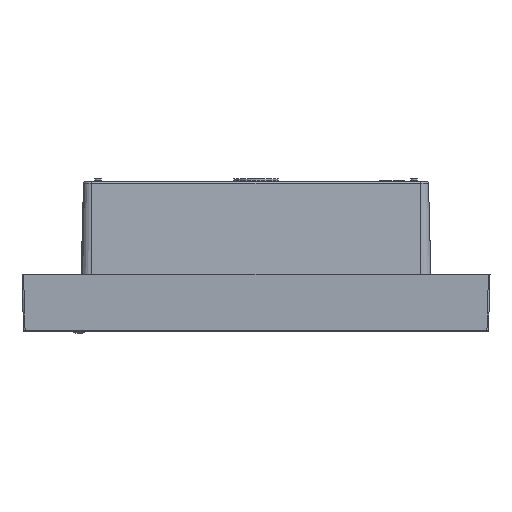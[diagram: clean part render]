
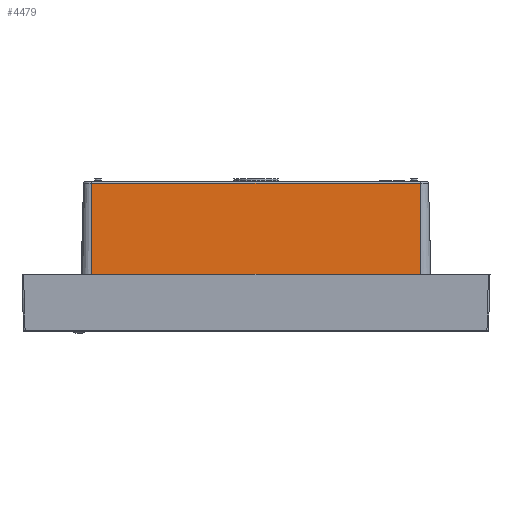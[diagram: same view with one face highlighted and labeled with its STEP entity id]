
A CAD part, left-side view. The second image highlights one B-rep face of the part: STEP entity #4479.
In plain terms, the highlighted planar face has unit normal (-1, 0, 0.026).
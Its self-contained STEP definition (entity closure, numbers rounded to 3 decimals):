
#3137 = VECTOR ( 'NONE', #30525, 1000. ) ;
#4479 = ADVANCED_FACE ( 'NONE', ( #23466 ), #9289, .T. ) ;
#5918 = CARTESIAN_POINT ( 'NONE',  ( -106.536, 51.5, -29.972 ) ) ;
#7533 = VERTEX_POINT ( 'NONE', #20070 ) ;
#9289 = PLANE ( 'NONE',  #33227 ) ;
#9416 = CARTESIAN_POINT ( 'NONE',  ( -106.563, -51.5, -31.027 ) ) ;
#10283 = VERTEX_POINT ( 'NONE', #22260 ) ;
#12027 = LINE ( 'NONE', #43152, #38844 ) ;
#13625 = DIRECTION ( 'NONE',  ( 0., 1., 0. ) ) ;
#13774 = CARTESIAN_POINT ( 'NONE',  ( -105.763, -51.5, -0.487 ) ) ;
#14369 = ORIENTED_EDGE ( 'NONE', *, *, #19811, .T. ) ;
#15028 = CARTESIAN_POINT ( 'NONE',  ( -106.536, -51.5, -29.972 ) ) ;
#15806 = EDGE_CURVE ( 'NONE', #30506, #10283, #12027, .T. ) ;
#17935 = LINE ( 'NONE', #9416, #3137 ) ;
#18014 = EDGE_CURVE ( 'NONE', #26742, #7533, #17935, .T. ) ;
#19811 = EDGE_CURVE ( 'NONE', #7533, #10283, #37505, .T. ) ;
#20070 = CARTESIAN_POINT ( 'NONE',  ( -105.763, -51.5, -0.487 ) ) ;
#20280 = DIRECTION ( 'NONE',  ( -1., 0., 0.026 ) ) ;
#22260 = CARTESIAN_POINT ( 'NONE',  ( -105.763, 51.5, -0.487 ) ) ;
#23466 = FACE_OUTER_BOUND ( 'NONE', #36322, .T. ) ;
#23598 = ORIENTED_EDGE ( 'NONE', *, *, #15806, .F. ) ;
#25704 = DIRECTION ( 'NONE',  ( 0.026, 0., 1. ) ) ;
#26644 = EDGE_CURVE ( 'NONE', #30506, #26742, #27153, .T. ) ;
#26742 = VERTEX_POINT ( 'NONE', #15028 ) ;
#27018 = ORIENTED_EDGE ( 'NONE', *, *, #26644, .T. ) ;
#27153 = LINE ( 'NONE', #28822, #40840 ) ;
#27463 = DIRECTION ( 'NONE',  ( 0.026, 0., 1. ) ) ;
#28200 = VECTOR ( 'NONE', #13625, 1000. ) ;
#28822 = CARTESIAN_POINT ( 'NONE',  ( -106.536, -51.5, -29.972 ) ) ;
#28973 = DIRECTION ( 'NONE',  ( 0., -1., 0. ) ) ;
#30506 = VERTEX_POINT ( 'NONE', #5918 ) ;
#30525 = DIRECTION ( 'NONE',  ( 0.026, 0., 1. ) ) ;
#33227 = AXIS2_PLACEMENT_3D ( 'NONE', #37414, #20280, #27463 ) ;
#36322 = EDGE_LOOP ( 'NONE', ( #23598, #27018, #40224, #14369 ) ) ;
#37414 = CARTESIAN_POINT ( 'NONE',  ( -106.563, -51.5, -31.027 ) ) ;
#37505 = LINE ( 'NONE', #13774, #28200 ) ;
#38844 = VECTOR ( 'NONE', #25704, 1000. ) ;
#40224 = ORIENTED_EDGE ( 'NONE', *, *, #18014, .T. ) ;
#40840 = VECTOR ( 'NONE', #28973, 1000. ) ;
#43152 = CARTESIAN_POINT ( 'NONE',  ( -106.563, 51.5, -31.027 ) ) ;
